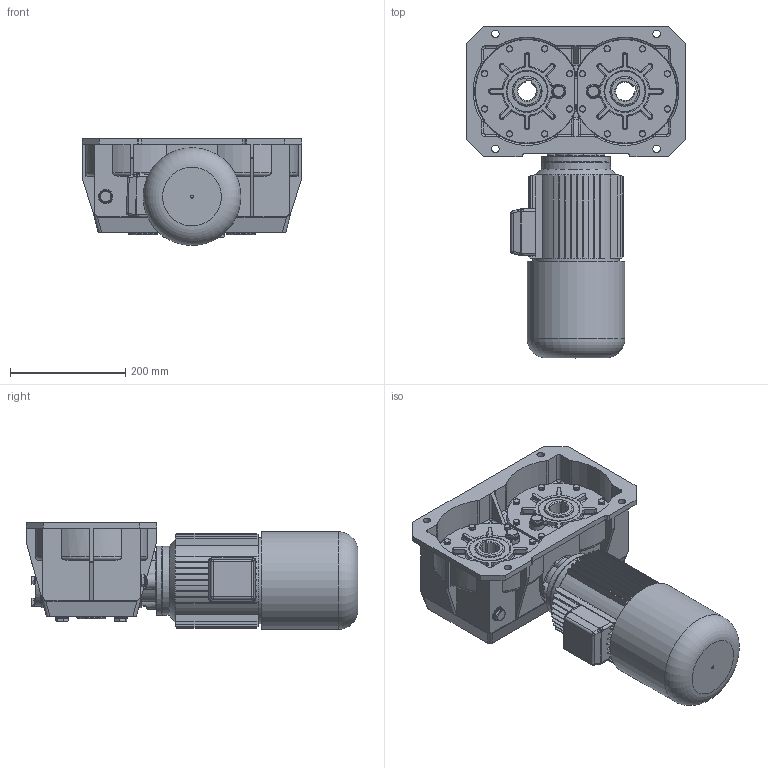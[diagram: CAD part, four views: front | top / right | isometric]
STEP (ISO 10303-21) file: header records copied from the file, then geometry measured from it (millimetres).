
FILE_DESCRIPTION((''),'2;1');
FILE_NAME('Y:\Archivi Inventor\Prog_07\int_170\figurini\MRV1702U per sito\MRV1702U_80_B14_b.stp','2013-02-14T15:24:29',('tech3'),(''),'Autodesk Inventor 2013','Autodesk Inventor 2013','');
FILE_SCHEMA(('AUTOMOTIVE_DESIGN { 1 0 10303 214 1 1 1 1 }'));
Length unit declared in the file: millimetre
Products named in the file (18): fig_MRV170 2U 80 B5; fig_Carcassa MRV-2U 170; fig_0717002-A0; 0104029; fig_mozzo corona. MRV-RV40cusc_conici; 0104028; fig_0717009; PARAOLIO 50x70x10; PARAOLIO 35x47x8; Guarnizione 3_8 GAS; Tappo3_8 GAS; AS 1237 (2.1) 6; AS 1237 (2.1) 8; UNI 5739 M6 x 20; UNI 5739 M8 x 20; 0104006; UNI 5931 M 8 x  25; motori B14 brake 80
Assembly tree (73 placements, depth 2):
  fig_MRV170 2U 80 B5
    fig_Carcassa MRV-2U 170
    fig_0717002-A0  x2
    0104029  x2
    fig_mozzo corona. MRV-RV40cusc_conici  x2
    0104028  x2
    fig_0717009
    PARAOLIO 50x70x10  x4
    PARAOLIO 35x47x8
    Guarnizione 3_8 GAS  x6
    Tappo3_8 GAS  x6
    AS 1237 (2.1) 6  x16
    AS 1237 (2.1) 8  x4
    UNI 5739 M6 x 20  x16
    UNI 5739 M8 x 20  x4
    0104006
    UNI 5931 M 8 x  25  x4
    motori B14 brake 80
Bounding box: 382 x 576.9 x 185.98 mm (x, y, z)
Volume: 10463336.5 mm3; surface area: 1289090.4 mm2
Topology: 74 solids, 76 shells, 1890 faces, 4377 edges, 2738 vertices
Faces by surface type: plane 935, cylinder 543, cone 207, torus 107, bspline 90, sphere 8
Full cylindrical faces by diameter (mm): 4.917 x20, 5 x1, 6 x16, 6.4 x16, 6.5 x32, 6.647 x8, 7 x4, 8 x8, 8.4 x4, 8.5 x16, 8.88 x16, 11 x16, 11.63 x4, 13 x12, 13.046 x6, 14 x4, 14.95 x6, 16.3 x6, 19 x1, 22 x12, 25 x4, 39.605 x1, 43.5 x1, 47 x2, 50 x2, 56.381 x4, 62 x6, 65 x4, 70 x8, 80 x1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
Entity records: 37538 total; most frequent: CARTESIAN_POINT 10031, DIRECTION 5774, ORIENTED_EDGE 5194, EDGE_CURVE 2597, AXIS2_PLACEMENT_3D 2228, VERTEX_POINT 1717, EDGE_LOOP 1450, VECTOR 1318
